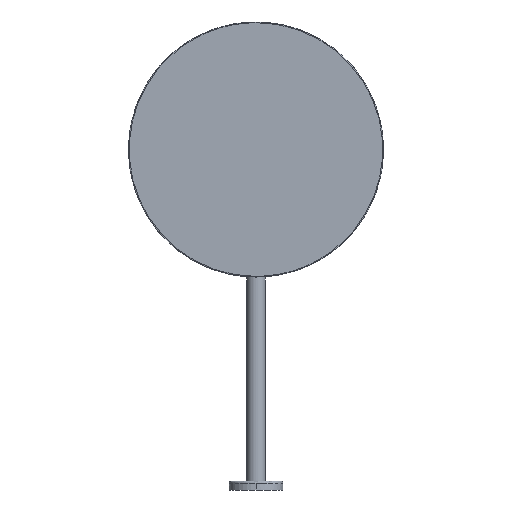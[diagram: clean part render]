
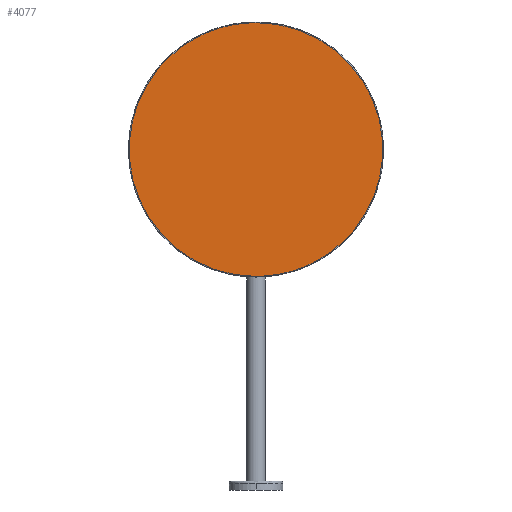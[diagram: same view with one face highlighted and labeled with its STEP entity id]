
A CAD part, front view. The second image highlights one B-rep face of the part: STEP entity #4077.
In plain terms, the highlighted planar face has unit normal (0, -1, 0).
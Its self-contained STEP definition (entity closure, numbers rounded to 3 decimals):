
#47 =( BOUNDED_CURVE ( )  B_SPLINE_CURVE ( 3, ( #1578, #4779, #4802, #2106 ),
 .UNSPECIFIED., .F., .F. ) 
 B_SPLINE_CURVE_WITH_KNOTS ( ( 4, 4 ),
 ( 0., 0.001 ),
 .UNSPECIFIED. ) 
 CURVE ( )  GEOMETRIC_REPRESENTATION_ITEM ( )  RATIONAL_B_SPLINE_CURVE ( ( 1., 1., 1., 1. ) ) 
 REPRESENTATION_ITEM ( '' )  );
#128 = ORIENTED_EDGE ( 'NONE', *, *, #2447, .F. ) ;
#353 = CARTESIAN_POINT ( 'NONE',  ( -0.655, -79.929, 176.303 ) ) ;
#407 = EDGE_CURVE ( 'NONE', #1535, #5681, #6014, .T. ) ;
#554 = CARTESIAN_POINT ( 'NONE',  ( 0., -79.929, 325.5 ) ) ;
#1064 = CARTESIAN_POINT ( 'NONE',  ( 0.437, -79.929, 474.698 ) ) ;
#1074 = AXIS2_PLACEMENT_3D ( 'NONE', #554, #2169, #6357 ) ;
#1446 = ORIENTED_EDGE ( 'NONE', *, *, #1933, .F. ) ;
#1535 = VERTEX_POINT ( 'NONE', #353 ) ;
#1578 = CARTESIAN_POINT ( 'NONE',  ( 0., -79.929, 176.301 ) ) ;
#1732 = CARTESIAN_POINT ( 'NONE',  ( 0., -79.929, 474.699 ) ) ;
#1916 =( BOUNDED_CURVE ( )  B_SPLINE_CURVE ( 3, ( #6387, #5324, #4270, #2157 ),
 .UNSPECIFIED., .F., .T. ) 
 B_SPLINE_CURVE_WITH_KNOTS ( ( 4, 4 ),
 ( 0.001, 1. ),
 .UNSPECIFIED. ) 
 CURVE ( )  GEOMETRIC_REPRESENTATION_ITEM ( )  RATIONAL_B_SPLINE_CURVE ( ( 1., 0.335, 0.335, 1. ) ) 
 REPRESENTATION_ITEM ( '' )  );
#1933 = EDGE_CURVE ( 'NONE', #6013, #1535, #47, .T. ) ;
#2106 = CARTESIAN_POINT ( 'NONE',  ( -0.655, -79.929, 176.303 ) ) ;
#2157 = CARTESIAN_POINT ( 'NONE',  ( 0., -79.929, 176.301 ) ) ;
#2169 = DIRECTION ( 'NONE',  ( 0., -1., 0. ) ) ;
#2375 = FACE_OUTER_BOUND ( 'NONE', #5596, .T. ) ;
#2447 = EDGE_CURVE ( 'NONE', #5681, #5536, #3720, .T. ) ;
#3334 = CARTESIAN_POINT ( 'NONE',  ( -297.093, -79.929, 474.699 ) ) ;
#3633 = CARTESIAN_POINT ( 'NONE',  ( 0., -79.929, 474.699 ) ) ;
#3668 = PLANE ( 'NONE',  #1074 ) ;
#3720 =( BOUNDED_CURVE ( )  B_SPLINE_CURVE ( 3, ( #3633, #5746, #1064, #5233 ),
 .UNSPECIFIED., .F., .T. ) 
 B_SPLINE_CURVE_WITH_KNOTS ( ( 4, 4 ),
 ( 0., 0.001 ),
 .UNSPECIFIED. ) 
 CURVE ( )  GEOMETRIC_REPRESENTATION_ITEM ( )  RATIONAL_B_SPLINE_CURVE ( ( 1., 1., 1., 1. ) ) 
 REPRESENTATION_ITEM ( '' )  );
#3776 = ORIENTED_EDGE ( 'NONE', *, *, #6308, .F. ) ;
#3786 = CARTESIAN_POINT ( 'NONE',  ( -297.745, -79.929, 177.607 ) ) ;
#3901 = ORIENTED_EDGE ( 'NONE', *, *, #407, .F. ) ;
#4069 = CARTESIAN_POINT ( 'NONE',  ( 0.655, -79.929, 474.697 ) ) ;
#4077 = ADVANCED_FACE ( 'NONE', ( #2375 ), #3668, .T. ) ;
#4270 = CARTESIAN_POINT ( 'NONE',  ( 297.093, -79.929, 176.301 ) ) ;
#4779 = CARTESIAN_POINT ( 'NONE',  ( -0.218, -79.929, 176.301 ) ) ;
#4802 = CARTESIAN_POINT ( 'NONE',  ( -0.437, -79.929, 176.302 ) ) ;
#4852 = CARTESIAN_POINT ( 'NONE',  ( -0.655, -79.929, 176.303 ) ) ;
#5233 = CARTESIAN_POINT ( 'NONE',  ( 0.655, -79.929, 474.697 ) ) ;
#5324 = CARTESIAN_POINT ( 'NONE',  ( 297.745, -79.929, 473.393 ) ) ;
#5536 = VERTEX_POINT ( 'NONE', #4069 ) ;
#5596 = EDGE_LOOP ( 'NONE', ( #128, #3901, #1446, #3776 ) ) ;
#5681 = VERTEX_POINT ( 'NONE', #6321 ) ;
#5746 = CARTESIAN_POINT ( 'NONE',  ( 0.218, -79.929, 474.699 ) ) ;
#5933 = CARTESIAN_POINT ( 'NONE',  ( 0., -79.929, 176.301 ) ) ;
#6013 = VERTEX_POINT ( 'NONE', #5933 ) ;
#6014 =( BOUNDED_CURVE ( )  B_SPLINE_CURVE ( 3, ( #4852, #3786, #3334, #1732 ),
 .UNSPECIFIED., .F., .F. ) 
 B_SPLINE_CURVE_WITH_KNOTS ( ( 4, 4 ),
 ( 0.001, 1. ),
 .UNSPECIFIED. ) 
 CURVE ( )  GEOMETRIC_REPRESENTATION_ITEM ( )  RATIONAL_B_SPLINE_CURVE ( ( 1., 0.335, 0.335, 1. ) ) 
 REPRESENTATION_ITEM ( '' )  );
#6308 = EDGE_CURVE ( 'NONE', #5536, #6013, #1916, .T. ) ;
#6321 = CARTESIAN_POINT ( 'NONE',  ( 0., -79.929, 474.699 ) ) ;
#6357 = DIRECTION ( 'NONE',  ( 0., 0., -1. ) ) ;
#6387 = CARTESIAN_POINT ( 'NONE',  ( 0.655, -79.929, 474.697 ) ) ;
